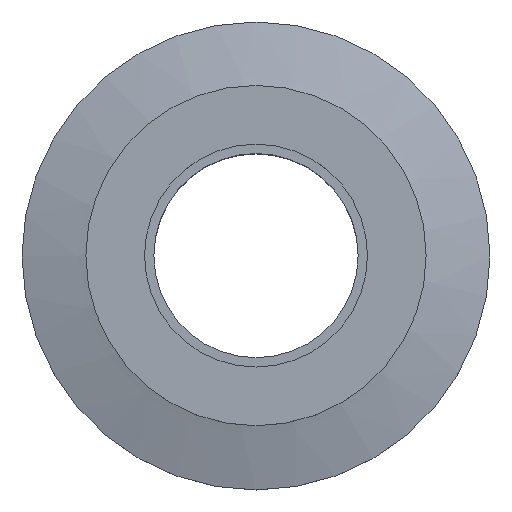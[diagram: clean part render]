
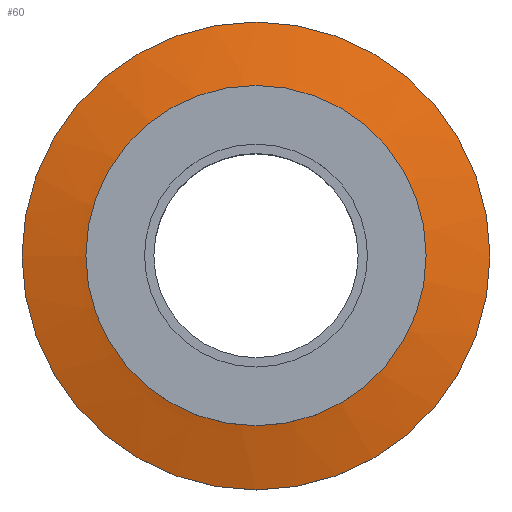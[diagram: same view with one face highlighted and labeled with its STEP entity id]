
A CAD part, top view. The second image highlights one B-rep face of the part: STEP entity #60.
In plain terms, the highlighted conical face has half-angle 75 degrees and reference radius 27.5 mm.
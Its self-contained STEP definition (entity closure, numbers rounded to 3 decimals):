
#60 = ADVANCED_FACE( '', ( #127, #128 ), #129, .T. );
#127 = FACE_BOUND( '', #190, .T. );
#128 = FACE_OUTER_BOUND( '', #191, .T. );
#129 = CONICAL_SURFACE( '', #192, 27.5, 1.309 );
#190 = EDGE_LOOP( '', ( #269 ) );
#191 = EDGE_LOOP( '', ( #270 ) );
#192 = AXIS2_PLACEMENT_3D( '', #271, #272, #273 );
#269 = ORIENTED_EDGE( '', *, *, #311, .T. );
#270 = ORIENTED_EDGE( '', *, *, #296, .F. );
#271 = CARTESIAN_POINT( '', ( 0., 0., 3. ) );
#272 = DIRECTION( '', ( 0., 0., -1. ) );
#273 = DIRECTION( '', ( -1., 0., 0. ) );
#296 = EDGE_CURVE( '', #329, #329, #330, .T. );
#311 = EDGE_CURVE( '', #352, #352, #353, .T. );
#329 = VERTEX_POINT( '', #371 );
#330 = CIRCLE( '', #372, 27.5 );
#352 = VERTEX_POINT( '', #394 );
#353 = CIRCLE( '', #395, 14.5 );
#371 = CARTESIAN_POINT( '', ( -27.5, 0., 3. ) );
#372 = AXIS2_PLACEMENT_3D( '', #413, #414, #415 );
#394 = CARTESIAN_POINT( '', ( -14.5, 0., 6.483 ) );
#395 = AXIS2_PLACEMENT_3D( '', #437, #438, #439 );
#413 = CARTESIAN_POINT( '', ( 0., 0., 3. ) );
#414 = DIRECTION( '', ( 0., 0., -1. ) );
#415 = DIRECTION( '', ( -1., 0., 0. ) );
#437 = CARTESIAN_POINT( '', ( 0., 0., 6.483 ) );
#438 = DIRECTION( '', ( 0., 0., -1. ) );
#439 = DIRECTION( '', ( -1., 0., 0. ) );
